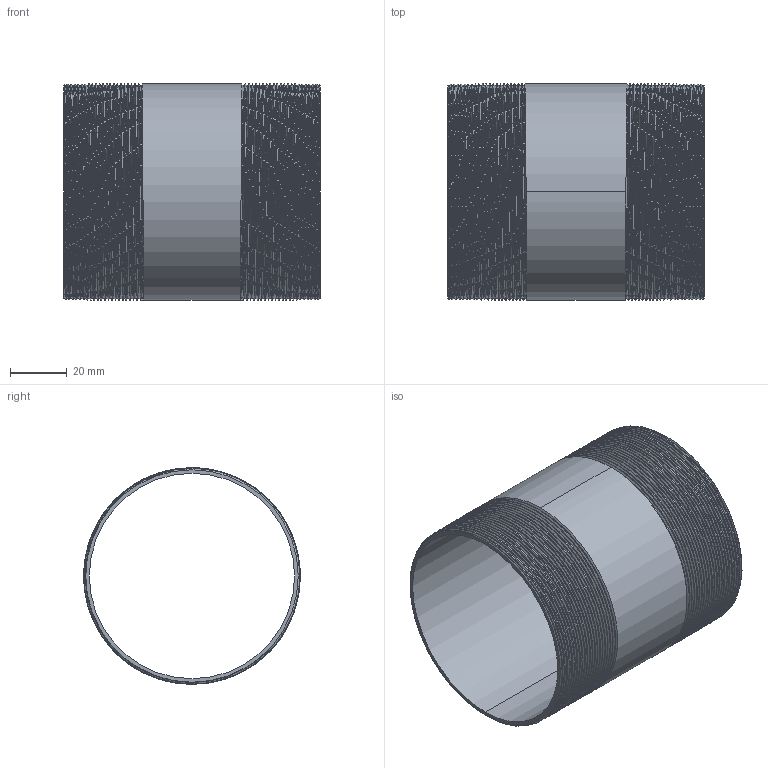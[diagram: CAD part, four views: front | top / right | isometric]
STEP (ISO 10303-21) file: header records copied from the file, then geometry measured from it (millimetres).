
FILE_DESCRIPTION (( 'STEP AP203' ), '1' );
FILE_NAME ('3D_R210_2 1-2x90_17148635.STEP', '2024-08-16T10:16:50', ( '' ), ( '' ), 'SwSTEP 2.0', 'SolidWorks 2024', '' );
FILE_SCHEMA (( 'CONFIG_CONTROL_DESIGN' ));
Length unit declared in the file: millimetre
Products named in the file (1): 3D_R210_2 1-2x90_17148635
Bounding box: 90 x 76.07 x 76.1 mm (x, y, z)
Volume: 36553.2 mm3; surface area: 49467 mm2
Topology: 1 solids, 1 shells, 106 faces, 306 edges, 202 vertices
Faces by surface type: cone 92, bspline 6, cylinder 4, plane 4
Entity records: 20059 total; most frequent: CARTESIAN_POINT 17595, ORIENTED_EDGE 612, DIRECTION 328, EDGE_CURVE 306, VERTEX_POINT 202, B_SPLINE_CURVE_WITH_KNOTS 184, AXIS2_PLACEMENT_3D 113, EDGE_LOOP 108
